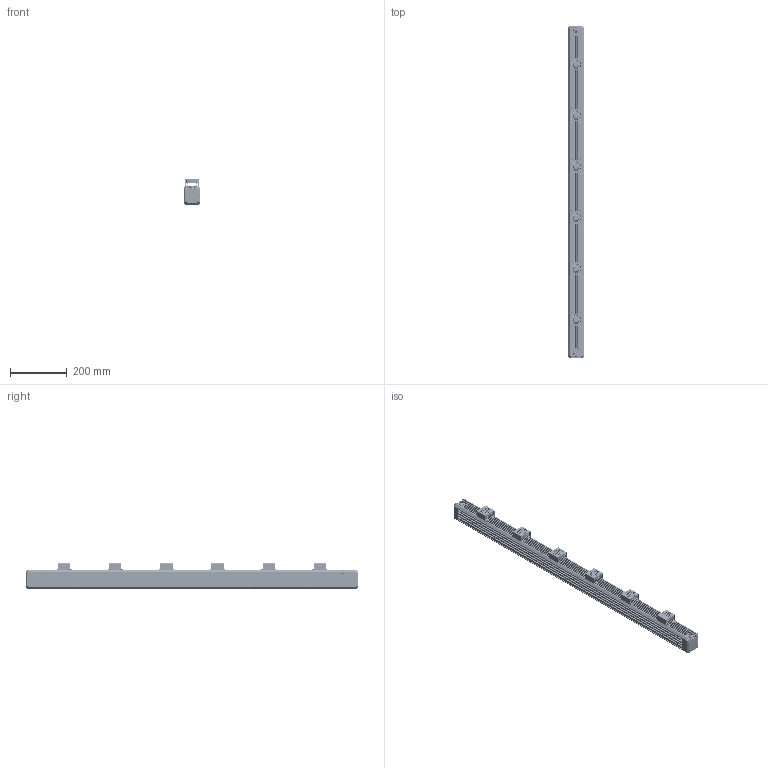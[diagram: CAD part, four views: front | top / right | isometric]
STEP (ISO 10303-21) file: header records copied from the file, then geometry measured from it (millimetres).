
FILE_DESCRIPTION((''),'2;1');
FILE_NAME('MV-LTDS-H-1100-W_ASM_1_ASM','2025-06-03T15:22:10',('huguozhe'),(''),'CREO PARAMETRIC BY PTC INC, 2020044','CREO PARAMETRIC BY PTC INC, 2020044','');
FILE_SCHEMA(('AUTOMOTIVE_DESIGN { 1 0 10303 214 1 1 1 1 }'));
Products named in the file (25): DE-15-000651_1; DE-15-000650_ASM_1_ASM; DE-15-000653_1; DE-15-000652_ASM_1_ASM; SC-HSCM3X6B-GB70_1_1; DE-12-001681_1; SC-AM3X10NL-BNI-SCM435-GB70_1_1; SC-HSCM3X8-SUS316_1; DE-11-019911_1; 8002-CLS-M3-1_1; DE-11-019911_ASM_1_ASM; 101800527_01_1; 101800527_02_1; 101800527_MGA4012HB-O10_ASM_1_ASM; SC-ASFM3X14NL-BNI-SUS316L_1; NUT-M4-GB6170_1; DE-14-015560_1_1_1; DE-14-016113_ASM_1_1_ASM_1_ASM; DE-14-016113_ASM_ASM_1_ASM; 19M-H_2_1_1_1; 19M-8H-8P_1_1; 19M-8H_ASM_1_ASM_1_ASM; 19M-8H_ASM_ASM_1_ASM; DE-14-016113-19M-8H_ASM; MV-LTDS-H-1100-W_ASM_1_ASM
Assembly tree (116 placements, depth 5):
  MV-LTDS-H-1100-W_ASM_1_ASM
    DE-15-000650_ASM_1_ASM
      DE-15-000651_1
    DE-15-000652_ASM_1_ASM  x2
      DE-15-000653_1
    SC-HSCM3X6B-GB70_1_1  x10
    DE-12-001681_1
    SC-AM3X10NL-BNI-SCM435-GB70_1_1  x32
    SC-HSCM3X8-SUS316_1  x8
    DE-11-019911_ASM_1_ASM  x6
      DE-11-019911_1
      8002-CLS-M3-1_1
    101800527_MGA4012HB-O10_ASM_1_ASM  x6
      101800527_01_1
      101800527_02_1
    SC-ASFM3X14NL-BNI-SUS316L_1  x24
    NUT-M4-GB6170_1  x8
    DE-14-016113-19M-8H_ASM  x2
      DE-14-016113_ASM_ASM_1_ASM
        DE-14-016113_ASM_1_1_ASM_1_ASM
          DE-14-015560_1_1_1
      19M-8H_ASM_ASM_1_ASM
        19M-8H_ASM_1_ASM_1_ASM
          19M-H_2_1_1_1
          19M-8H-8P_1_1
Bounding box: 58 x 1170 x 90.6 mm (x, y, z)
Volume: 3588438.4 mm3; surface area: 998348 mm2
Topology: 134 solids, 368 shells, 7310 faces, 19560 edges, 12630 vertices
Faces by surface type: plane 3308, cylinder 2594, cone 948, torus 360, bspline 68, sphere 32
Entity records: 82809 total; most frequent: CARTESIAN_POINT 25364, DIRECTION 11149, ORIENTED_EDGE 9688, EDGE_CURVE 5034, AXIS2_PLACEMENT_3D 4349, VERTEX_POINT 3351, VECTOR 2451, LINE 2451
